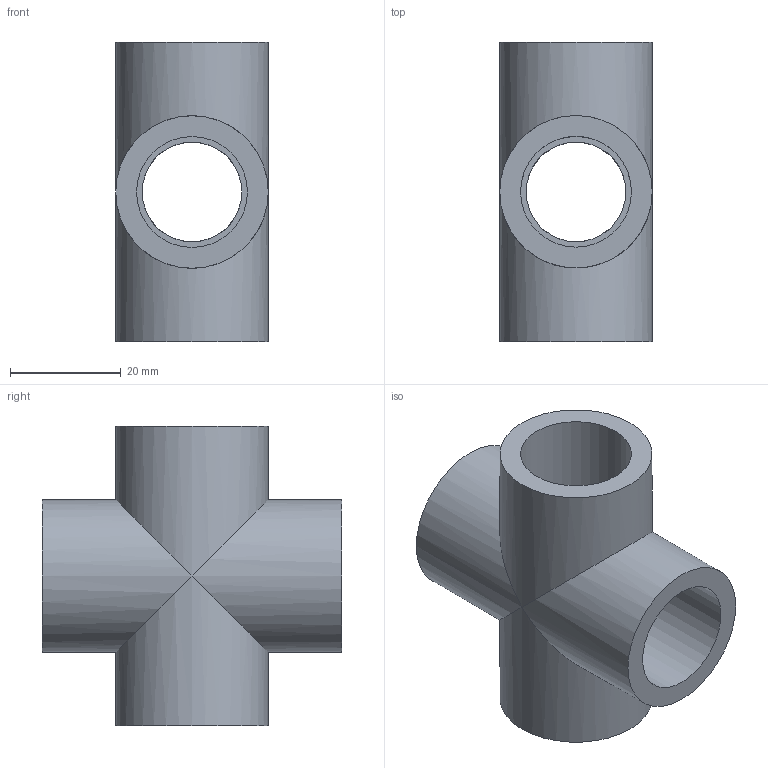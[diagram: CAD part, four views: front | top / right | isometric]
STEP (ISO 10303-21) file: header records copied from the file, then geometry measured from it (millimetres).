
FILE_DESCRIPTION(/* description */ ('Croci a 90° PVC'),/* implementation_level */ '2;1');
FILE_NAME(/* name */ 'C:\Users\POLYPIPE\Desktop\DATASET INVENTOR\LIBRERIA EFFAST\RACCORDI 3DxWEB\RDR\3D_RDRCRD\3D_RDRCRD0200.stp',/* time_stamp */ '2018-01-19T14:16:56+01:00',/* author */ ('POLYPIPE'),/* organization */ ('Polypipe Italia s.r.l.'),/* preprocessor_version */ 'ST-DEVELOPER v16.1',/* originating_system */ 'Autodesk Inventor 2016',/* authorisation */ '');
FILE_SCHEMA (('CONFIG_CONTROL_DESIGN'));
Length unit declared in the file: millimetre
Products named in the file (1): 3D_RDRCRD
Bounding box: 27.5 x 54 x 54 mm (x, y, z)
Volume: 22868 mm3; surface area: 12876.9 mm2
Topology: 1 solids, 1 shells, 20 faces, 36 edges, 20 vertices
Faces by surface type: cylinder 12, plane 8
Full cylindrical faces by diameter (mm): 18 x4, 20 x4, 27.5 x4
Entity records: 464 total; most frequent: DIRECTION 90, CARTESIAN_POINT 65, ORIENTED_EDGE 48, AXIS2_PLACEMENT_3D 45, EDGE_LOOP 40, EDGE_CURVE 24, FACE_BOUND 20, FACE_OUTER_BOUND 20
